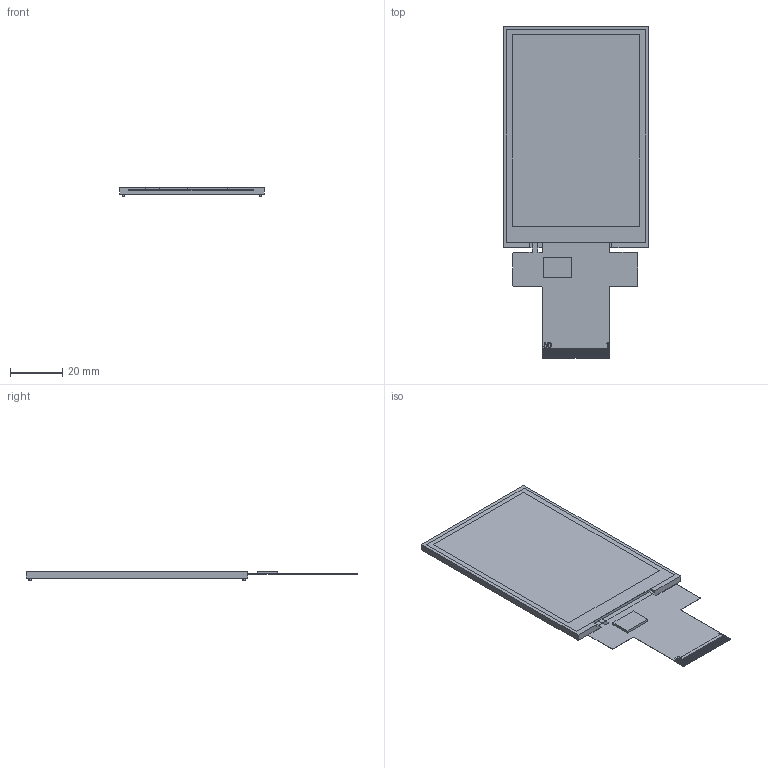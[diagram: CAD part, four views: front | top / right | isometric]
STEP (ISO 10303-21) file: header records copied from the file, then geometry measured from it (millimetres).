
FILE_DESCRIPTION (( 'STEP AP214' ), '1' );
FILE_NAME ('CFAF320480C7-035TN.STEP', '2023-02-24T20:29:22', ( '' ), ( '' ), 'SwSTEP 2.0', 'SolidWorks 2021', '' );
FILE_SCHEMA (( 'AUTOMOTIVE_DESIGN' ));
Length unit declared in the file: millimetre
Products named in the file (1): CFAF320480C7-035TN
Bounding box: 55.5 x 127.15 x 3.6 mm (x, y, z)
Volume: 12012.8 mm3; surface area: 13951 mm2
Topology: 54 solids, 54 shells, 405 faces, 868 edges, 580 vertices
Faces by surface type: plane 373, bspline 17, cylinder 15
Entity records: 16075 total; most frequent: CARTESIAN_POINT 3159, ORIENTED_EDGE 1736, DIRECTION 1642, EDGE_CURVE 868, VECTOR 804, LINE 804, VERTEX_POINT 580, AXIS2_PLACEMENT_3D 419
